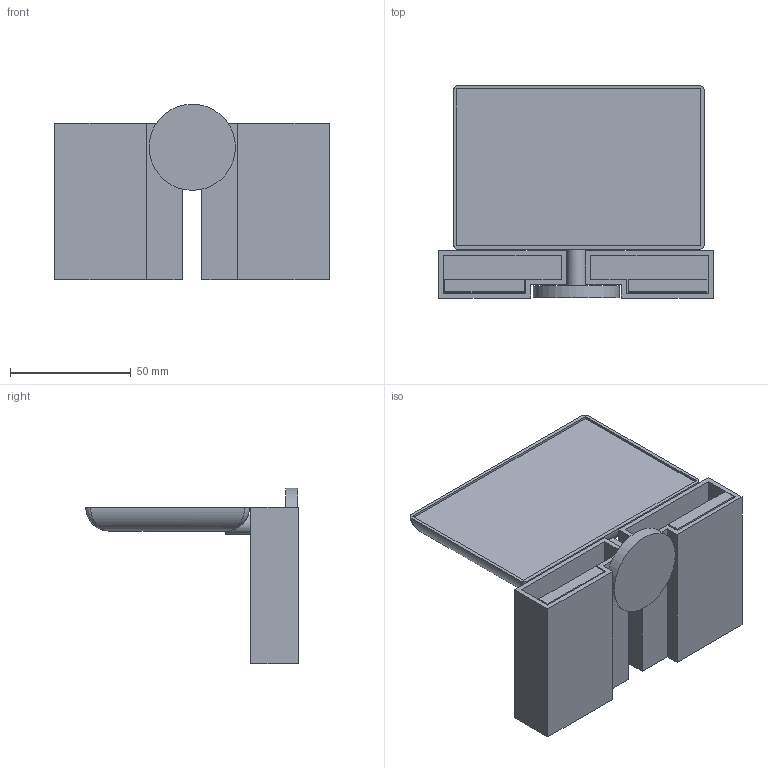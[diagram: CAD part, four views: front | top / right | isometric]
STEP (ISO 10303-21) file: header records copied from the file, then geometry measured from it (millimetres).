
FILE_DESCRIPTION(/* description */ (''),/* implementation_level */ '2;1');
FILE_NAME(/* name */ 'C:/Users/ijova/Desktop/PC-SUBDESK v3.step',/* time_stamp */ '2020-10-09T09:22:39+02:00',/* author */ (''),/* organization */ (''),/* preprocessor_version */ 'ST-DEVELOPER v18.1',/* originating_system */ 'Autodesk Translation Framework v9.3.0.1241',/* authorisation */ '');
FILE_SCHEMA (('AUTOMOTIVE_DESIGN { 1 0 10303 214 3 1 1 }'));
Length unit declared in the file: millimetre
Products named in the file (5): PC-SUBDESK; Monitor; TWO; rwerwer; rwerwer(Spiegeln)
Assembly tree (4 placements, depth 3):
  PC-SUBDESK
    Monitor
    TWO
      rwerwer
      rwerwer(Spiegeln)
Bounding box: 113.9 x 88.12 x 72.88 mm (x, y, z)
Volume: 105682.7 mm3; surface area: 67426.2 mm2
Topology: 6 solids, 6 shells, 73 faces, 165 edges, 106 vertices
Faces by surface type: plane 63, cylinder 6, bspline 4
Full cylindrical faces by diameter (mm): 7.873 x1, 35.756 x1
Entity records: 2273 total; most frequent: CARTESIAN_POINT 521, DIRECTION 331, ORIENTED_EDGE 322, EDGE_CURVE 161, LINE 143, VECTOR 143, VERTEX_POINT 106, AXIS2_PLACEMENT_3D 94
